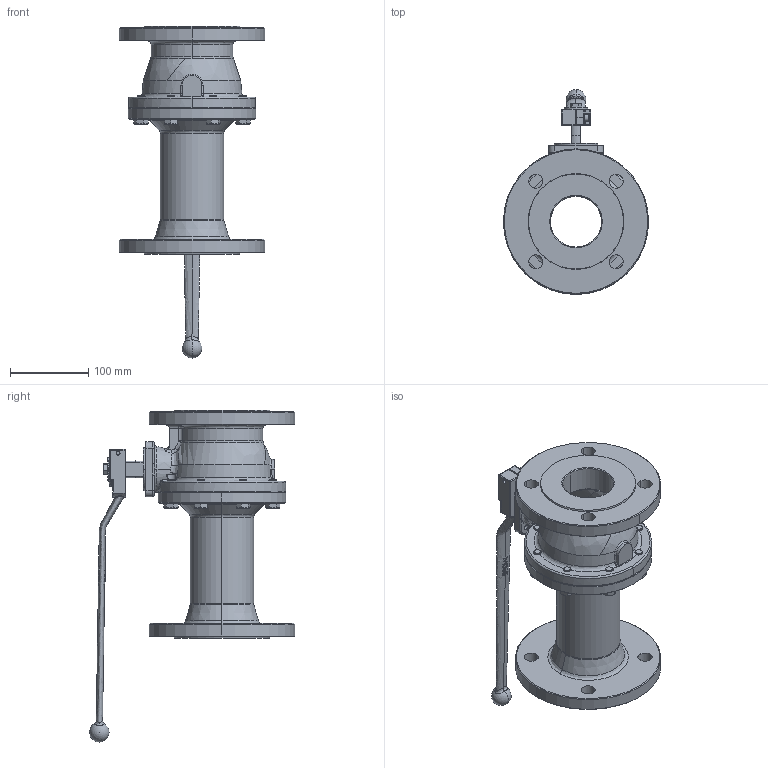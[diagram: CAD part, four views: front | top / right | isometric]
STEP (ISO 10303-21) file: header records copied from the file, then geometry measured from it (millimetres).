
FILE_DESCRIPTION (( 'STEP AP214' ), '1' );
FILE_NAME ('0316065.STEP', '2015-06-15T06:42:56', ( 'pere' ), ( '' ), 'SwSTEP 2.0', 'SolidWorks 2013', '' );
FILE_SCHEMA (( 'AUTOMOTIVE_DESIGN' ));
Length unit declared in the file: millimetre
Products named in the file (9): DIN 912 M6 x 20 --- 20C_DIN 912 M6 x 20 --- 20C; _ISO 4017 - M10 x 30-N; ISO 4017 - M8 x 16-N_ISO 4017 - M8 x 16-N; 5165_17; M065CHST; EPI65Q; 0316065L; 0516065C; 0316065
Assembly tree (15 placements, depth 2):
  0316065
    0516065C
    0316065L
    EPI65Q
    M065CHST
    5165_17
    ISO 4017 - M8 x 16-N_ISO 4017 - M8 x 16-N
    _ISO 4017 - M10 x 30-N  x8
    DIN 912 M6 x 20 --- 20C_DIN 912 M6 x 20 --- 20C
Bounding box: 185 x 261.4 x 423 mm (x, y, z)
Volume: 1979943.6 mm3; surface area: 382562.3 mm2
Topology: 15 solids, 15 shells, 843 faces, 2075 edges, 1245 vertices
Faces by surface type: plane 253, cylinder 223, cone 161, bspline 152, torus 38, sphere 16
Entity records: 44844 total; most frequent: CARTESIAN_POINT 30187, ORIENTED_EDGE 3216, DIRECTION 2557, EDGE_CURVE 1608, AXIS2_PLACEMENT_3D 1039, VERTEX_POINT 1004, EDGE_LOOP 728, ADVANCED_FACE 640
